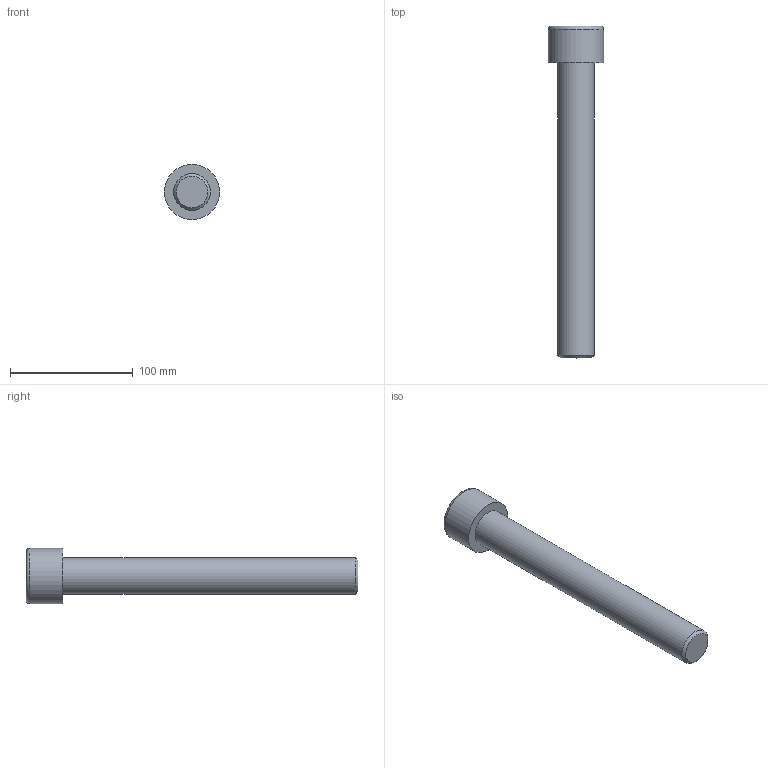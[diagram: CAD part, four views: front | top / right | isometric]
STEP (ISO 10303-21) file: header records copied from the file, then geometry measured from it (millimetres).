
FILE_DESCRIPTION(/* description */ (''),/* implementation_level */ '2;1');
FILE_NAME(/* name */ 'C:\Users\D\Documents\Inventor\各種小物\JIS\JIS B 1176 六角穴付きボルト\M30x240.stp',/* time_stamp */ '2022-05-09T19:01:41+09:00',/* author */ ('D'),/* organization */ (''),/* preprocessor_version */ 'ST-DEVELOPER v18',/* originating_system */ 'Autodesk Inventor 2020',/* authorisation */ '');
FILE_SCHEMA (('AUTOMOTIVE_DESIGN { 1 0 10303 214 3 1 1 }'));
Length unit declared in the file: millimetre
Products named in the file (1): M1.6x2.5
Bounding box: 45 x 270 x 45 mm (x, y, z)
Volume: 209184.7 mm3; surface area: 31026 mm2
Topology: 1 solids, 1 shells, 14 faces, 33 edges, 22 vertices
Faces by surface type: plane 9, cone 2, cylinder 2, torus 1
Full cylindrical faces by diameter (mm): 30 x1, 45 x1
Entity records: 435 total; most frequent: CARTESIAN_POINT 83, ORIENTED_EDGE 64, DIRECTION 64, EDGE_CURVE 32, AXIS2_PLACEMENT_3D 24, VERTEX_POINT 22, EDGE_LOOP 16, LINE 16
